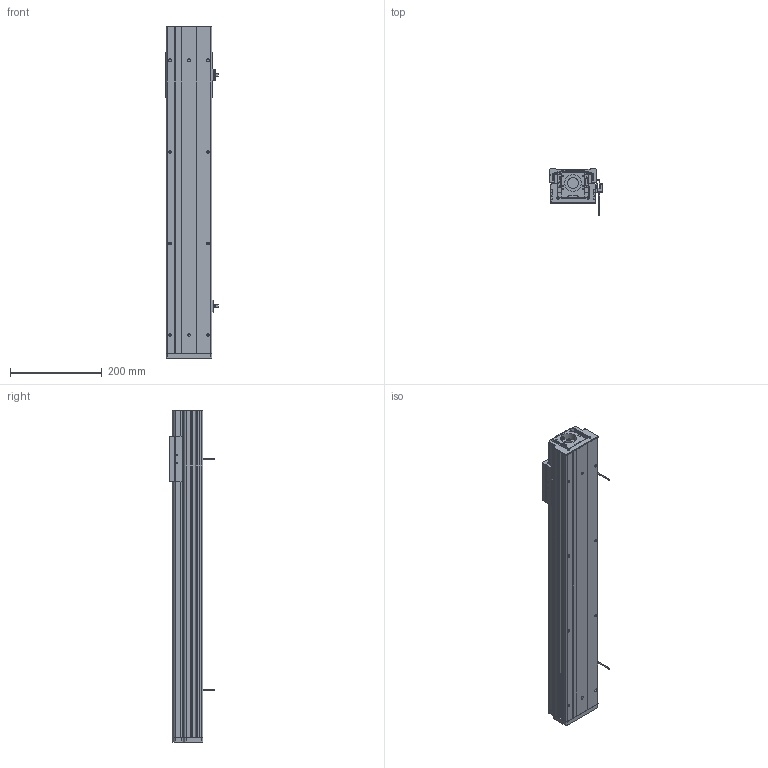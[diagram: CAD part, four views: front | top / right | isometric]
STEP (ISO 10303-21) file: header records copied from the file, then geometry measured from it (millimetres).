
FILE_DESCRIPTION (( 'STEP AP203' ), '1' );
FILE_NAME ('CTHM10-S500-O-BC.STEP', '2019-12-18T01:17:42', ( '微软用户' ), ( '微软中国' ), 'SwSTEP 2.0', 'SolidWorks 2017', '' );
FILE_SCHEMA (( 'CONFIG_CONTROL_DESIGN' ));
Length unit declared in the file: millimetre
Products named in the file (11): CTHM10盓傅耜; CTHM10-S500-O-BC; CTHM10固定侧自制轴承座; CTHM10裔啣(100); CTHM10傷裔(祥結裔啣); CTHM10綴傷裔; 覜茼え; 遣喳蝶15x12x8; CTHM10菁釱(200); EE-SX672-BR; CTHM10痄雄釱(党蜊)
Assembly tree (14 placements, depth 2):
  CTHM10-S500-O-BC
    CTHM10菁釱(200)
    CTHM10痄雄釱(党蜊)
    CTHM10盓傅耜
    CTHM10固定侧自制轴承座
    CTHM10裔啣(100)
    CTHM10傷裔(祥結裔啣)
    CTHM10綴傷裔
    覜茼え
    遣喳蝶15x12x8  x4
    EE-SX672-BR  x2
Bounding box: 114.7 x 100.2 x 725 mm (x, y, z)
Volume: 1971586.6 mm3; surface area: 663174.1 mm2
Topology: 14 solids, 14 shells, 940 faces, 2662 edges, 1736 vertices
Faces by surface type: cylinder 501, plane 395, cone 44
Entity records: 31793 total; most frequent: CARTESIAN_POINT 7669, DIRECTION 4832, ORIENTED_EDGE 4796, EDGE_CURVE 2398, AXIS2_PLACEMENT_3D 1765, VERTEX_POINT 1584, LINE 1302, VECTOR 1302
